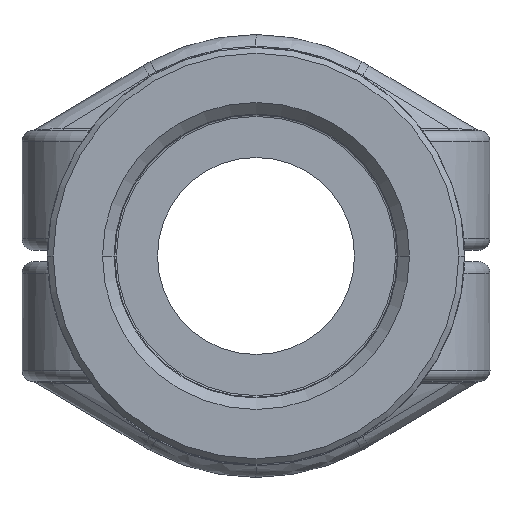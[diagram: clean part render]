
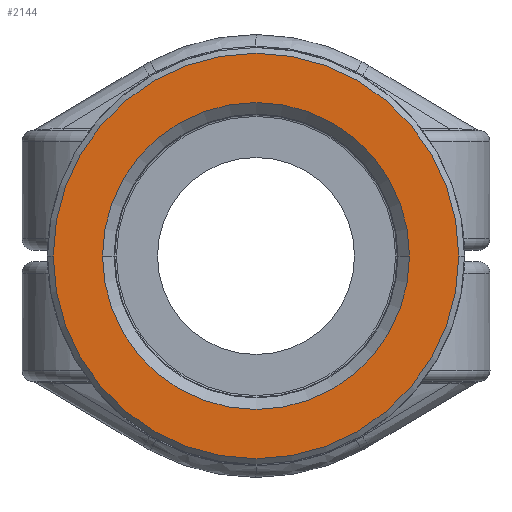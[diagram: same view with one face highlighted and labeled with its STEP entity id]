
A CAD part, left-side view. The second image highlights one B-rep face of the part: STEP entity #2144.
In plain terms, the highlighted planar face has unit normal (-1, 0, 0).
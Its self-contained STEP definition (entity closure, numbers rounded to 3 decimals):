
#28=CARTESIAN_POINT('',(-58.861,0.,0.));
#29=DIRECTION('',(1.,0.,0.));
#30=DIRECTION('',(0.,1.,0.));
#31=AXIS2_PLACEMENT_3D('',#28,#29,#30);
#37=CARTESIAN_POINT('',(-58.861,0.,0.));
#38=DIRECTION('',(1.,0.,0.));
#39=DIRECTION('',(0.,-1.,0.));
#40=AXIS2_PLACEMENT_3D('',#37,#38,#39);
#45=CARTESIAN_POINT('',(-58.861,0.,0.));
#46=DIRECTION('',(-1.,0.,0.));
#47=DIRECTION('',(0.,1.,0.));
#48=AXIS2_PLACEMENT_3D('',#45,#46,#47);
#53=CARTESIAN_POINT('',(-58.861,0.,0.));
#54=DIRECTION('',(-1.,0.,0.));
#55=DIRECTION('',(0.,-1.,0.));
#56=AXIS2_PLACEMENT_3D('',#53,#54,#55);
#1925=CARTESIAN_POINT('',(-58.861,17.76,0.));
#1926=CARTESIAN_POINT('',(-58.861,-17.76,0.));
#1927=VERTEX_POINT('',#1925);
#1928=VERTEX_POINT('',#1926);
#1929=CARTESIAN_POINT('',(-58.861,13.447,0.));
#1930=CARTESIAN_POINT('',(-58.861,-13.447,0.));
#1931=VERTEX_POINT('',#1929);
#1932=VERTEX_POINT('',#1930);
#2127=CARTESIAN_POINT('',(-58.861,13.447,0.));
#2128=DIRECTION('',(-1.,0.,0.));
#2129=DIRECTION('',(0.,-1.,0.));
#2130=AXIS2_PLACEMENT_3D('',#2127,#2128,#2129);
#2131=PLANE('',#2130);
#2133=ORIENTED_EDGE('',*,*,#2132,.T.);
#2135=ORIENTED_EDGE('',*,*,#2134,.T.);
#2136=EDGE_LOOP('',(#2133,#2135));
#2137=FACE_OUTER_BOUND('',#2136,.F.);
#2139=ORIENTED_EDGE('',*,*,#2138,.T.);
#2141=ORIENTED_EDGE('',*,*,#2140,.T.);
#2142=EDGE_LOOP('',(#2139,#2141));
#2143=FACE_BOUND('',#2142,.F.);
#32=CIRCLE('',#31,17.76);
#41=CIRCLE('',#40,17.76);
#49=CIRCLE('',#48,13.447);
#57=CIRCLE('',#56,13.447);
#2132=EDGE_CURVE('',#1927,#1928,#32,.T.);
#2134=EDGE_CURVE('',#1928,#1927,#41,.T.);
#2138=EDGE_CURVE('',#1931,#1932,#49,.T.);
#2140=EDGE_CURVE('',#1932,#1931,#57,.T.);
#2144=ADVANCED_FACE('',(#2137,#2143),#2131,.T.);
